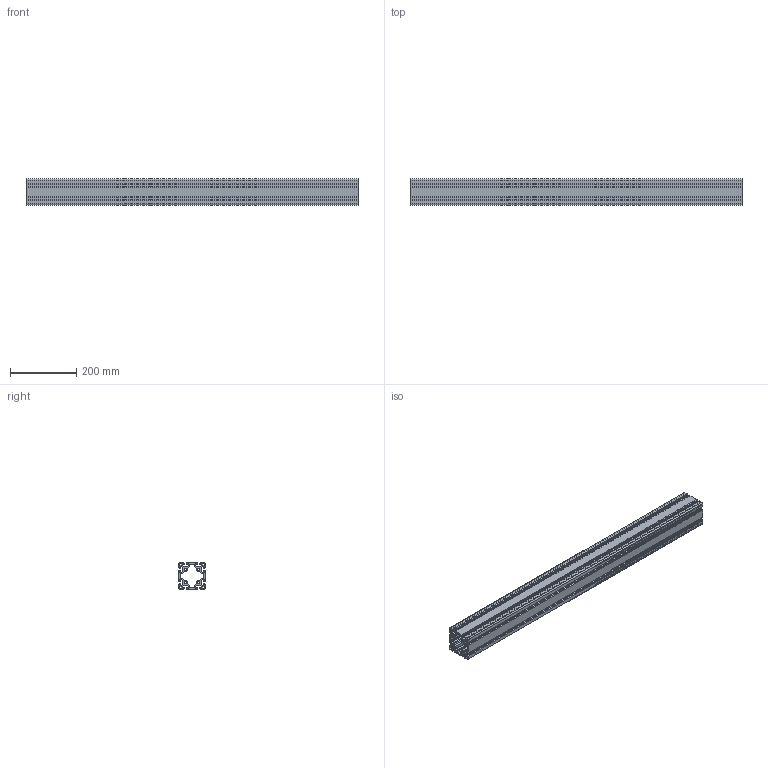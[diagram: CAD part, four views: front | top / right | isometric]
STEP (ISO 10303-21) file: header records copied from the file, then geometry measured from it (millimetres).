
FILE_DESCRIPTION (( 'STEP AP203' ), '1' );
FILE_NAME ('10430_80x80_L.STEP', '2016-03-02T08:01:42', ( '' ), ( '' ), 'SwSTEP 2.0', 'SolidWorks 2015', '' );
FILE_SCHEMA (( 'CONFIG_CONTROL_DESIGN' ));
Length unit declared in the file: millimetre
Products named in the file (1): 10430_80x80_L
Bounding box: 1000 x 80 x 80 mm (x, y, z)
Volume: 1941912.1 mm3; surface area: 1124924.7 mm2
Topology: 1 solids, 1 shells, 338 faces, 1008 edges, 672 vertices
Faces by surface type: plane 198, cylinder 140
Entity records: 11505 total; most frequent: CARTESIAN_POINT 2019, ORIENTED_EDGE 2016, DIRECTION 1966, EDGE_CURVE 1008, LINE 728, VECTOR 728, VERTEX_POINT 672, AXIS2_PLACEMENT_3D 619
